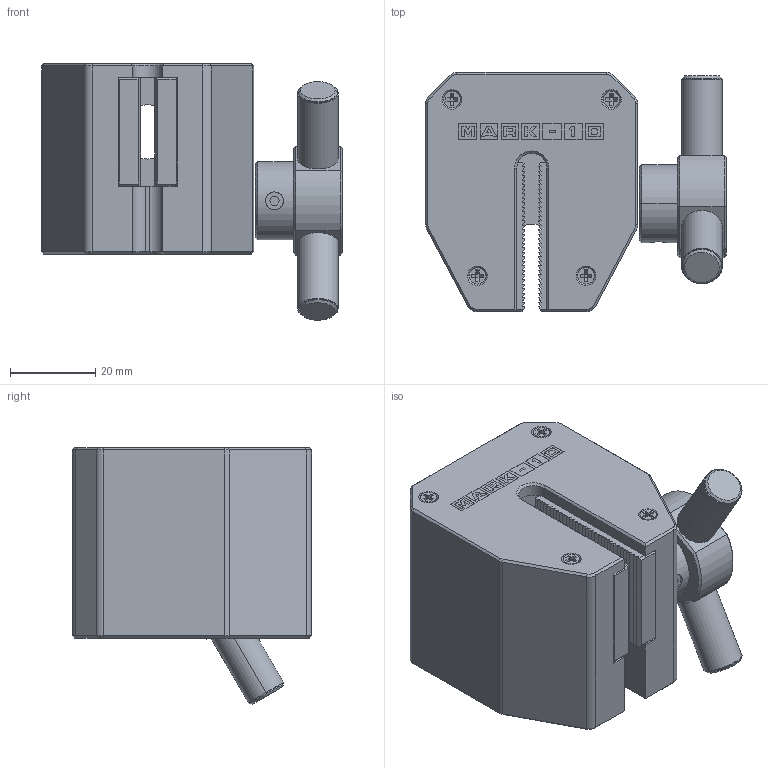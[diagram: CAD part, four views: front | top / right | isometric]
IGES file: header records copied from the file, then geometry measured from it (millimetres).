
Global section: file name: No Iges File Name specified; native system: Autodesk Inventor 2010; preprocessor: AutoDesk Inventor Iges Exporter R2010; author: mlampen; date: 20170420.113711; units: inch
Bounding box: 70.33 x 55.96 x 59.98 mm (x, y, z)
Volume: 108528 mm3; surface area: 29928.7 mm2
Topology: 10 solids, 10 shells, 548 faces, 1360 edges, 870 vertices
Faces by surface type: plane 330, bspline 79, revolution 47, cylinder 47, cone 45
